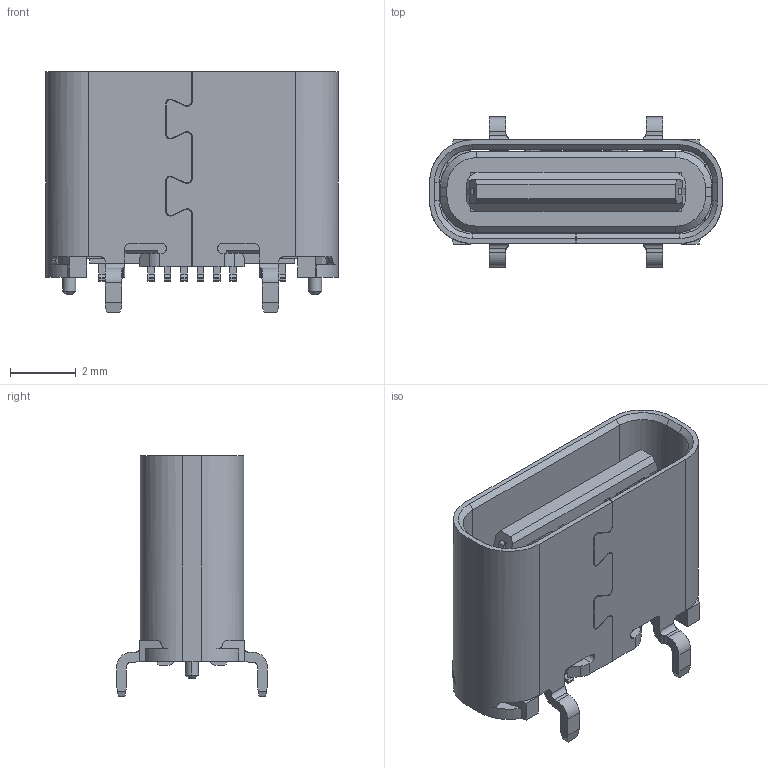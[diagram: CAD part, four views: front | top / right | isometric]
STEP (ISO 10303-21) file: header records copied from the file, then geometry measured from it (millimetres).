
FILE_DESCRIPTION((''),'2;1');
FILE_NAME('CP','2022-04-20T',('Administrator'),(''),'PRO/ENGINEER BY PARAMETRIC TECHNOLOGY CORPORATION, 2010480','PRO/ENGINEER BY PARAMETRIC TECHNOLOGY CORPORATION, 2010480','');
FILE_SCHEMA(('CONFIG_CONTROL_DESIGN'));
Length unit declared in the file: millimetre
Products named in the file (1): CP
Bounding box: 8.94 x 4.6 x 7.35 mm (x, y, z)
Volume: 80.5 mm3; surface area: 441.5 mm2
Topology: 1 solids, 33 shells, 1036 faces, 2818 edges, 1840 vertices
Faces by surface type: plane 842, cylinder 166, cone 24, bspline 4
Entity records: 32573 total; most frequent: CARTESIAN_POINT 6199, ORIENTED_EDGE 5636, DIRECTION 5182, EDGE_CURVE 2818, VECTOR 2374, LINE 2374, VERTEX_POINT 1840, AXIS2_PLACEMENT_3D 1404
